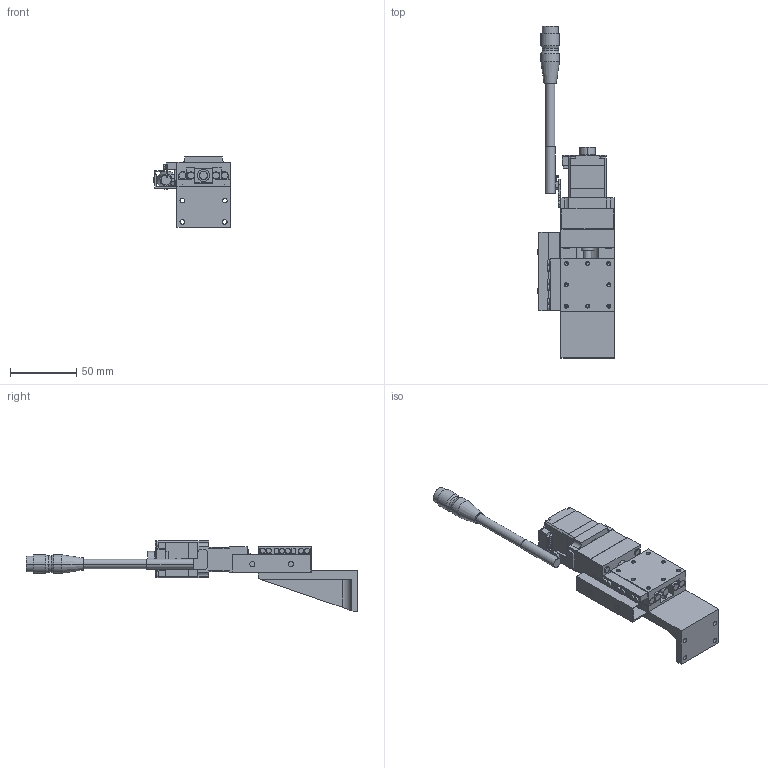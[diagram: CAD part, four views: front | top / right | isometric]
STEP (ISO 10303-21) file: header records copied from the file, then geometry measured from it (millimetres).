
FILE_DESCRIPTION(('STEP AP203'),'1');
FILE_NAME('C:/3D-Trans/3D_PZG413T-L□-C+241108.step','2024-11-08T02:09:14',(' '),(' '),'Spatial InterOp 3D',' ',' ');
FILE_SCHEMA(('CONFIG_CONTROL_DESIGN'));
Length unit declared in the file: millimetre
Products named in the file (7): 1; 2; 3; 4; 5; 6; 7
Bounding box: 57.4 x 250 x 53 mm (x, y, z)
Volume: 119468.2 mm3; surface area: 52308.4 mm2
Topology: 7 solids, 7 shells, 656 faces, 1672 edges, 1062 vertices
Faces by surface type: plane 387, cylinder 215, cone 54
Entity records: 20002 total; most frequent: DIRECTION 3491, CARTESIAN_POINT 3392, ORIENTED_EDGE 3304, EDGE_CURVE 1652, AXIS2_PLACEMENT_3D 1178, LINE 1135, VECTOR 1135, VERTEX_POINT 1062
